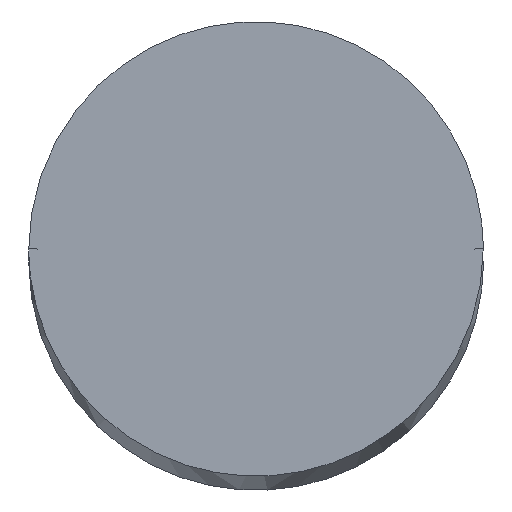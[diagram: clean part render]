
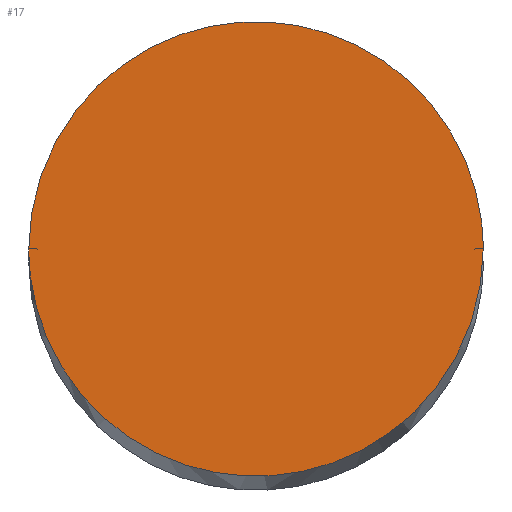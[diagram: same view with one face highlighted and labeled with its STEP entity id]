
A CAD part, top view. The second image highlights one B-rep face of the part: STEP entity #17.
In plain terms, the highlighted planar face has unit normal (0, 0, 1).
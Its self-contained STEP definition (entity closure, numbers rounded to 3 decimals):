
#17=ADVANCED_FACE('',(#27),#134,.T.);
#27=FACE_OUTER_BOUND('',#37,.T.);
#37=EDGE_LOOP('',(#52,#53));
#52=ORIENTED_EDGE('',*,*,#94,.F.);
#53=ORIENTED_EDGE('',*,*,#86,.F.);
#86=EDGE_CURVE('',#121,#127,#105,.T.);
#94=EDGE_CURVE('',#127,#121,#112,.T.);
#105=(
BOUNDED_CURVE()
B_SPLINE_CURVE(2,(#313,#314,#315,#316,#317),.UNSPECIFIED.,.F.,.F.)
B_SPLINE_CURVE_WITH_KNOTS((3,2,3),(-565.487,-424.115,
-282.743),.UNSPECIFIED.)
CURVE()
GEOMETRIC_REPRESENTATION_ITEM()
RATIONAL_B_SPLINE_CURVE((1.,0.707,1.,0.707,1.))
REPRESENTATION_ITEM('')
);
#112=(
BOUNDED_CURVE()
B_SPLINE_CURVE(2,(#348,#349,#350,#351,#352),.UNSPECIFIED.,.F.,.F.)
B_SPLINE_CURVE_WITH_KNOTS((3,2,3),(-282.743,-141.372,
0.),.UNSPECIFIED.)
CURVE()
GEOMETRIC_REPRESENTATION_ITEM()
RATIONAL_B_SPLINE_CURVE((1.,0.707,1.,0.707,1.))
REPRESENTATION_ITEM('')
);
#121=VERTEX_POINT('',#295);
#127=VERTEX_POINT('',#301);
#134=PLANE('',#230);
#230=AXIS2_PLACEMENT_3D('',#258,#239,$);
#239=DIRECTION('',(0.,0.,1.));
#258=CARTESIAN_POINT('',(2659.857,58.49,3200.));
#295=CARTESIAN_POINT('',(2479.857,-31.51,3200.));
#301=CARTESIAN_POINT('',(2659.857,-31.51,3200.));
#313=CARTESIAN_POINT('',(2479.857,-31.51,3200.));
#314=CARTESIAN_POINT('',(2479.857,58.49,3200.));
#315=CARTESIAN_POINT('',(2569.857,58.49,3200.));
#316=CARTESIAN_POINT('',(2659.857,58.49,3200.));
#317=CARTESIAN_POINT('',(2659.857,-31.51,3200.));
#348=CARTESIAN_POINT('',(2659.857,-31.51,3200.));
#349=CARTESIAN_POINT('',(2659.857,-121.51,3200.));
#350=CARTESIAN_POINT('',(2569.857,-121.51,3200.));
#351=CARTESIAN_POINT('',(2479.857,-121.51,3200.));
#352=CARTESIAN_POINT('',(2479.857,-31.51,3200.));
